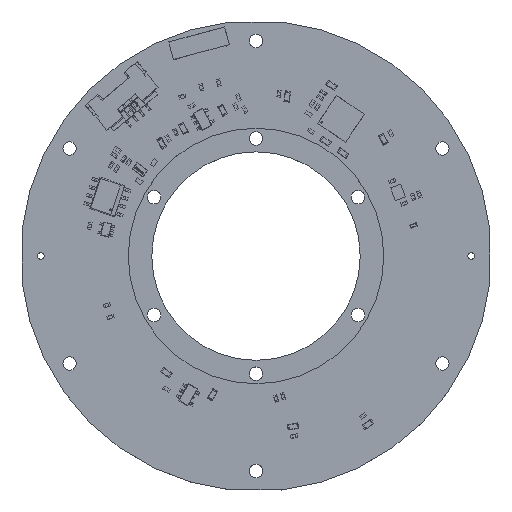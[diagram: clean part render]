
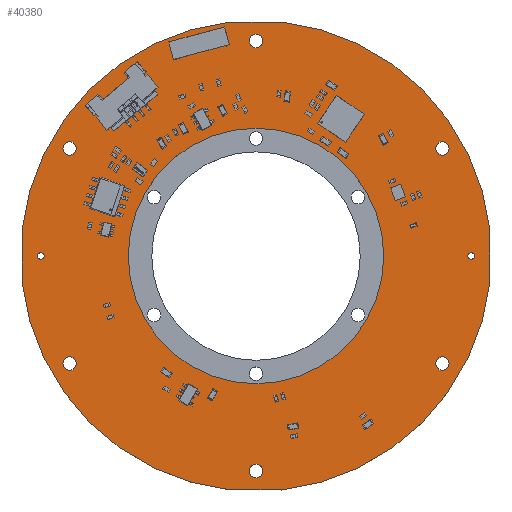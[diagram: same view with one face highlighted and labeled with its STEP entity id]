
A CAD part, top view. The second image highlights one B-rep face of the part: STEP entity #40380.
In plain terms, the highlighted planar face has unit normal (0, 0, 1).
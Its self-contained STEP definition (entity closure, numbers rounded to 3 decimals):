
#8454=LINE('',#138377,#19309);
#8458=LINE('',#138389,#19313);
#8462=LINE('',#138401,#19317);
#8466=LINE('',#138413,#19321);
#19309=VECTOR('',#112961,1.);
#19313=VECTOR('',#112973,1.);
#19317=VECTOR('',#112985,1.);
#19321=VECTOR('',#112997,1.);
#36060=PLANE('',#101782);
#40380=ADVANCED_FACE('',(#45429,#45430,#45431,#45432,#45433,#45434,#45435,
#45436,#45437,#45438),#36060,.F.);
#45429=FACE_BOUND('',#46844,.T.);
#45430=FACE_BOUND('',#46845,.T.);
#45431=FACE_BOUND('',#46846,.T.);
#45432=FACE_BOUND('',#46847,.T.);
#45433=FACE_BOUND('',#46848,.T.);
#45434=FACE_BOUND('',#46849,.T.);
#45435=FACE_BOUND('',#46850,.T.);
#45436=FACE_BOUND('',#46851,.T.);
#45437=FACE_BOUND('',#46852,.T.);
#45438=FACE_BOUND('',#46853,.T.);
#46844=EDGE_LOOP('',(#56523));
#46845=EDGE_LOOP('',(#56524));
#46846=EDGE_LOOP('',(#56525));
#46847=EDGE_LOOP('',(#56526));
#46848=EDGE_LOOP('',(#56527));
#46849=EDGE_LOOP('',(#56528));
#46850=EDGE_LOOP('',(#56529));
#46851=EDGE_LOOP('',(#56530));
#46852=EDGE_LOOP('',(#56531,#56532,#56533,#56534,#56535,#56536,#56537,#56538));
#46853=EDGE_LOOP('',(#56539));
#56523=ORIENTED_EDGE('',*,*,#87860,.T.);
#56524=ORIENTED_EDGE('',*,*,#87857,.T.);
#56525=ORIENTED_EDGE('',*,*,#87854,.T.);
#56526=ORIENTED_EDGE('',*,*,#87851,.T.);
#56527=ORIENTED_EDGE('',*,*,#87848,.T.);
#56528=ORIENTED_EDGE('',*,*,#87845,.T.);
#56529=ORIENTED_EDGE('',*,*,#87842,.T.);
#56530=ORIENTED_EDGE('',*,*,#87839,.T.);
#56531=ORIENTED_EDGE('',*,*,#87816,.T.);
#56532=ORIENTED_EDGE('',*,*,#87819,.T.);
#56533=ORIENTED_EDGE('',*,*,#87822,.T.);
#56534=ORIENTED_EDGE('',*,*,#87825,.T.);
#56535=ORIENTED_EDGE('',*,*,#87828,.T.);
#56536=ORIENTED_EDGE('',*,*,#87831,.T.);
#56537=ORIENTED_EDGE('',*,*,#87834,.T.);
#56538=ORIENTED_EDGE('',*,*,#87836,.T.);
#56539=ORIENTED_EDGE('',*,*,#87861,.F.);
#78499=VERTEX_POINT('',#138371);
#78502=VERTEX_POINT('',#138376);
#78504=VERTEX_POINT('',#138382);
#78506=VERTEX_POINT('',#138388);
#78508=VERTEX_POINT('',#138394);
#78510=VERTEX_POINT('',#138400);
#78512=VERTEX_POINT('',#138406);
#78514=VERTEX_POINT('',#138412);
#78515=VERTEX_POINT('',#138419);
#78517=VERTEX_POINT('',#138425);
#78519=VERTEX_POINT('',#138431);
#78521=VERTEX_POINT('',#138437);
#78523=VERTEX_POINT('',#138443);
#78525=VERTEX_POINT('',#138449);
#78527=VERTEX_POINT('',#138455);
#78529=VERTEX_POINT('',#138461);
#78531=VERTEX_POINT('',#138467);
#87816=EDGE_CURVE('',#78499,#78502,#8454,.T.);
#87819=EDGE_CURVE('',#78502,#78504,#98503,.T.);
#87822=EDGE_CURVE('',#78504,#78506,#8458,.T.);
#87825=EDGE_CURVE('',#78506,#78508,#98505,.T.);
#87828=EDGE_CURVE('',#78508,#78510,#8462,.T.);
#87831=EDGE_CURVE('',#78510,#78512,#98507,.T.);
#87834=EDGE_CURVE('',#78512,#78514,#8466,.T.);
#87836=EDGE_CURVE('',#78514,#78499,#98509,.T.);
#87839=EDGE_CURVE('',#78515,#78515,#98511,.T.);
#87842=EDGE_CURVE('',#78517,#78517,#98513,.T.);
#87845=EDGE_CURVE('',#78519,#78519,#98515,.T.);
#87848=EDGE_CURVE('',#78521,#78521,#98517,.T.);
#87851=EDGE_CURVE('',#78523,#78523,#98519,.T.);
#87854=EDGE_CURVE('',#78525,#78525,#98521,.T.);
#87857=EDGE_CURVE('',#78527,#78527,#98523,.T.);
#87860=EDGE_CURVE('',#78529,#78529,#98525,.T.);
#87861=EDGE_CURVE('',#78531,#78531,#98526,.T.);
#98503=CIRCLE('',#101743,34.999);
#98505=CIRCLE('',#101747,34.999);
#98507=CIRCLE('',#101751,34.999);
#98509=CIRCLE('',#101755,34.999);
#98511=CIRCLE('',#101758,1.);
#98513=CIRCLE('',#101761,1.);
#98515=CIRCLE('',#101764,1.);
#98517=CIRCLE('',#101767,0.5);
#98519=CIRCLE('',#101770,1.);
#98521=CIRCLE('',#101773,0.5);
#98523=CIRCLE('',#101776,1.);
#98525=CIRCLE('',#101779,1.);
#98526=CIRCLE('',#101781,19.);
#101743=AXIS2_PLACEMENT_3D('',#138383,#112967,#112968);
#101747=AXIS2_PLACEMENT_3D('',#138395,#112979,#112980);
#101751=AXIS2_PLACEMENT_3D('',#138407,#112991,#112992);
#101755=AXIS2_PLACEMENT_3D('',#138416,#113002,#113003);
#101758=AXIS2_PLACEMENT_3D('',#138422,#113009,#113010);
#101761=AXIS2_PLACEMENT_3D('',#138428,#113016,#113017);
#101764=AXIS2_PLACEMENT_3D('',#138434,#113023,#113024);
#101767=AXIS2_PLACEMENT_3D('',#138440,#113030,#113031);
#101770=AXIS2_PLACEMENT_3D('',#138446,#113037,#113038);
#101773=AXIS2_PLACEMENT_3D('',#138452,#113044,#113045);
#101776=AXIS2_PLACEMENT_3D('',#138458,#113051,#113052);
#101779=AXIS2_PLACEMENT_3D('',#138464,#113058,#113059);
#101781=AXIS2_PLACEMENT_3D('',#138466,#113062,#113063);
#101782=AXIS2_PLACEMENT_3D('',#138468,#113064,#113065);
#112961=DIRECTION('',(1.,0.,0.));
#112967=DIRECTION('',(0.,0.,1.));
#112968=DIRECTION('',(0.107,-0.994,0.));
#112973=DIRECTION('',(0.,1.,0.));
#112979=DIRECTION('',(0.,0.,1.));
#112980=DIRECTION('',(0.994,0.107,0.));
#112985=DIRECTION('',(-1.,0.,0.));
#112991=DIRECTION('',(0.,0.,1.));
#112992=DIRECTION('',(-0.107,0.994,0.));
#112997=DIRECTION('',(0.,-1.,0.));
#113002=DIRECTION('',(0.,0.,1.));
#113003=DIRECTION('',(-0.994,-0.107,0.));
#113009=DIRECTION('',(0.,0.,-1.));
#113010=DIRECTION('',(0.,1.,0.));
#113016=DIRECTION('',(0.,0.,-1.));
#113017=DIRECTION('',(0.,1.,0.));
#113023=DIRECTION('',(0.,0.,-1.));
#113024=DIRECTION('',(0.,1.,0.));
#113030=DIRECTION('',(0.,0.,-1.));
#113031=DIRECTION('',(0.,1.,0.));
#113037=DIRECTION('',(0.,0.,-1.));
#113038=DIRECTION('',(0.,1.,0.));
#113044=DIRECTION('',(0.,0.,-1.));
#113045=DIRECTION('',(0.,1.,0.));
#113051=DIRECTION('',(0.,0.,-1.));
#113052=DIRECTION('',(0.,1.,0.));
#113058=DIRECTION('',(0.,0.,-1.));
#113059=DIRECTION('',(0.,1.,0.));
#113062=DIRECTION('',(0.,0.,1.));
#113063=DIRECTION('',(0.,1.,0.));
#113064=DIRECTION('',(0.,0.,-1.));
#113065=DIRECTION('',(0.,-1.,0.));
#138371=CARTESIAN_POINT('',(-3.739,-34.797,5.4));
#138376=CARTESIAN_POINT('',(3.733,-34.798,5.4));
#138377=CARTESIAN_POINT('',(-3.739,-34.797,5.4));
#138382=CARTESIAN_POINT('',(34.8,-3.737,5.4));
#138383=CARTESIAN_POINT('',(0.001,0.001,5.4));
#138388=CARTESIAN_POINT('',(34.8,3.735,5.4));
#138389=CARTESIAN_POINT('',(34.8,-3.737,5.4));
#138394=CARTESIAN_POINT('',(3.739,34.802,5.4));
#138395=CARTESIAN_POINT('',(0.001,0.004,5.4));
#138400=CARTESIAN_POINT('',(-3.733,34.803,5.4));
#138401=CARTESIAN_POINT('',(3.739,34.802,5.4));
#138406=CARTESIAN_POINT('',(-34.8,3.741,5.4));
#138407=CARTESIAN_POINT('',(-0.001,0.004,5.4));
#138412=CARTESIAN_POINT('',(-34.8,-3.731,5.4));
#138413=CARTESIAN_POINT('',(-34.8,3.741,5.4));
#138416=CARTESIAN_POINT('',(-0.001,0.001,5.4));
#138419=CARTESIAN_POINT('',(-27.714,-14.995,5.4));
#138422=CARTESIAN_POINT('',(-27.714,-15.995,5.4));
#138425=CARTESIAN_POINT('',(-0.003,-30.998,5.4));
#138428=CARTESIAN_POINT('',(-0.003,-31.998,5.4));
#138431=CARTESIAN_POINT('',(27.712,-15.,5.4));
#138434=CARTESIAN_POINT('',(27.712,-16.,5.4));
#138437=CARTESIAN_POINT('',(-32.,0.505,5.4));
#138440=CARTESIAN_POINT('',(-32.,0.005,5.4));
#138443=CARTESIAN_POINT('',(-27.711,17.005,5.4));
#138446=CARTESIAN_POINT('',(-27.712,16.005,5.4));
#138449=CARTESIAN_POINT('',(32.,0.499,5.4));
#138452=CARTESIAN_POINT('',(32.,-0.001,5.4));
#138455=CARTESIAN_POINT('',(0.003,33.002,5.4));
#138458=CARTESIAN_POINT('',(0.003,32.002,5.4));
#138461=CARTESIAN_POINT('',(27.715,17.,5.4));
#138464=CARTESIAN_POINT('',(27.714,16.,5.4));
#138466=CARTESIAN_POINT('',(-0.001,0.001,5.4));
#138467=CARTESIAN_POINT('',(0.,19.001,5.4));
#138468=CARTESIAN_POINT('',(-3.739,-34.797,5.4));
